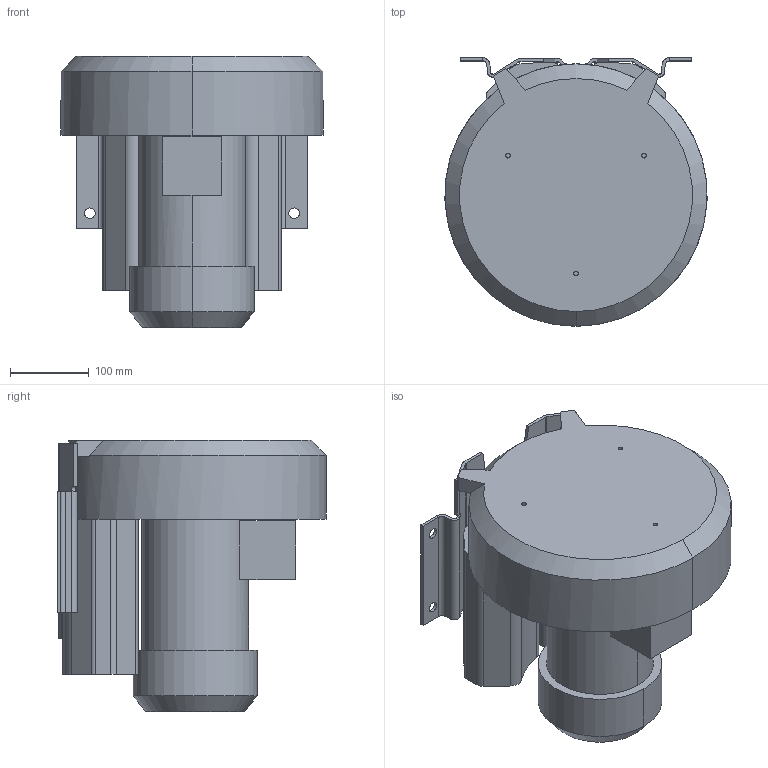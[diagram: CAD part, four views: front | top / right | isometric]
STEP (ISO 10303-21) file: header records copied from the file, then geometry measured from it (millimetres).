
FILE_DESCRIPTION (( 'STEP AP214' ), '1' );
FILE_NAME ('HSC0210-1MA151-1.STP', '2023-09-04T10:23:04', ( '' ), ( '' ), 'SwSTEP 2.0', 'SolidWorks 2022', '' );
FILE_SCHEMA (( 'AUTOMOTIVE_DESIGN' ));
Length unit declared in the file: millimetre
Products named in the file (1): HSC0210-1MA151-1
Bounding box: 333.8 x 342 x 345 mm (x, y, z)
Volume: 16096702.4 mm3; surface area: 680910.5 mm2
Topology: 1 solids, 1 shells, 187 faces, 503 edges, 329 vertices
Faces by surface type: cylinder 90, plane 90, cone 5, bspline 2
Entity records: 6359 total; most frequent: CARTESIAN_POINT 1499, DIRECTION 1030, ORIENTED_EDGE 1006, EDGE_CURVE 503, AXIS2_PLACEMENT_3D 373, VERTEX_POINT 329, LINE 284, VECTOR 284
